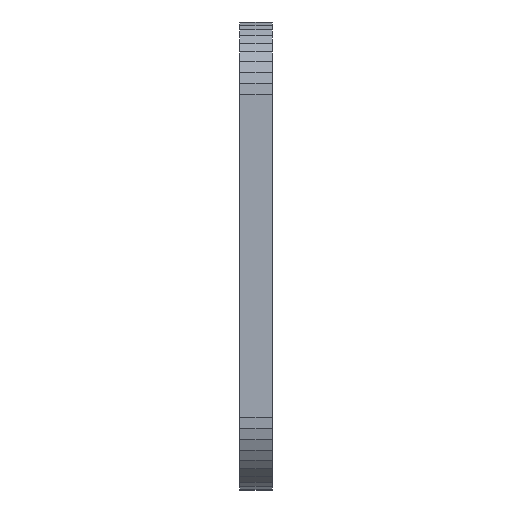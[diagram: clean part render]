
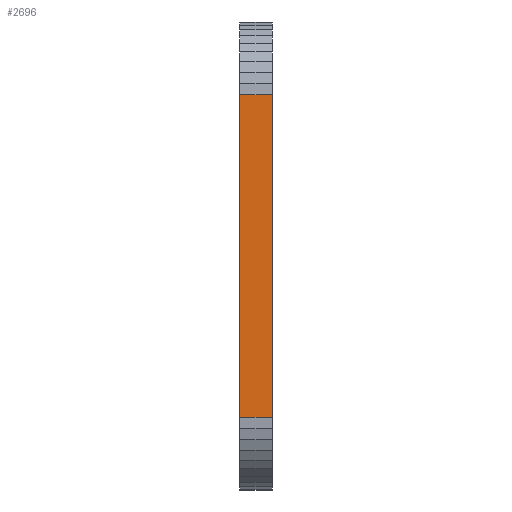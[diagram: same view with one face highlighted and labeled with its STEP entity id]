
A CAD part, left-side view. The second image highlights one B-rep face of the part: STEP entity #2696.
In plain terms, the highlighted planar face has unit normal (-1, 0, 0).
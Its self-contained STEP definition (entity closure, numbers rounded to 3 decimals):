
#72 = PLANE('',#73);
#73 = AXIS2_PLACEMENT_3D('',#74,#75,#76);
#74 = CARTESIAN_POINT('',(-12.678,51.5,-18.821));
#75 = DIRECTION('',(-0.,-1.,-0.));
#76 = DIRECTION('',(0.,0.,-1.));
#126 = PLANE('',#127);
#127 = AXIS2_PLACEMENT_3D('',#128,#129,#130);
#128 = CARTESIAN_POINT('',(-12.678,55.5,-18.821));
#129 = DIRECTION('',(-0.,-1.,-0.));
#130 = DIRECTION('',(0.,0.,-1.));
#767 = VERTEX_POINT('',#768);
#768 = CARTESIAN_POINT('',(-39.,55.5,0.));
#782 = PLANE('',#783);
#783 = AXIS2_PLACEMENT_3D('',#784,#785,#786);
#784 = CARTESIAN_POINT('',(-38.889,55.5,1.408));
#785 = DIRECTION('',(0.997,0.,-0.078));
#786 = DIRECTION('',(-0.078,0.,-0.997));
#794 = EDGE_CURVE('',#767,#795,#797,.T.);
#795 = VERTEX_POINT('',#796);
#796 = CARTESIAN_POINT('',(-39.,55.5,-40.));
#797 = SURFACE_CURVE('',#798,(#802,#809),.PCURVE_S1.);
#798 = LINE('',#799,#800);
#799 = CARTESIAN_POINT('',(-39.,55.5,0.));
#800 = VECTOR('',#801,1.);
#801 = DIRECTION('',(0.,0.,-1.));
#802 = PCURVE('',#126,#803);
#803 = DEFINITIONAL_REPRESENTATION('',(#804),#808);
#804 = LINE('',#805,#806);
#805 = CARTESIAN_POINT('',(-18.821,-26.322));
#806 = VECTOR('',#807,1.);
#807 = DIRECTION('',(1.,0.));
#808 = ( GEOMETRIC_REPRESENTATION_CONTEXT(2) 
PARAMETRIC_REPRESENTATION_CONTEXT() REPRESENTATION_CONTEXT('2D SPACE',''
  ) );
#809 = PCURVE('',#810,#815);
#810 = PLANE('',#811);
#811 = AXIS2_PLACEMENT_3D('',#812,#813,#814);
#812 = CARTESIAN_POINT('',(-39.,55.5,0.));
#813 = DIRECTION('',(1.,0.,0.));
#814 = DIRECTION('',(0.,0.,-1.));
#815 = DEFINITIONAL_REPRESENTATION('',(#816),#820);
#816 = LINE('',#817,#818);
#817 = CARTESIAN_POINT('',(0.,0.));
#818 = VECTOR('',#819,1.);
#819 = DIRECTION('',(1.,0.));
#820 = ( GEOMETRIC_REPRESENTATION_CONTEXT(2) 
PARAMETRIC_REPRESENTATION_CONTEXT() REPRESENTATION_CONTEXT('2D SPACE',''
  ) );
#838 = PLANE('',#839);
#839 = AXIS2_PLACEMENT_3D('',#840,#841,#842);
#840 = CARTESIAN_POINT('',(-39.,55.5,-40.));
#841 = DIRECTION('',(0.997,0.,0.078));
#842 = DIRECTION('',(0.078,0.,-0.997));
#1676 = VERTEX_POINT('',#1677);
#1677 = CARTESIAN_POINT('',(-39.,51.5,0.));
#1698 = EDGE_CURVE('',#1676,#1699,#1701,.T.);
#1699 = VERTEX_POINT('',#1700);
#1700 = CARTESIAN_POINT('',(-39.,51.5,-40.));
#1701 = SURFACE_CURVE('',#1702,(#1706,#1713),.PCURVE_S1.);
#1702 = LINE('',#1703,#1704);
#1703 = CARTESIAN_POINT('',(-39.,51.5,0.));
#1704 = VECTOR('',#1705,1.);
#1705 = DIRECTION('',(0.,0.,-1.));
#1706 = PCURVE('',#72,#1707);
#1707 = DEFINITIONAL_REPRESENTATION('',(#1708),#1712);
#1708 = LINE('',#1709,#1710);
#1709 = CARTESIAN_POINT('',(-18.821,-26.322));
#1710 = VECTOR('',#1711,1.);
#1711 = DIRECTION('',(1.,0.));
#1712 = ( GEOMETRIC_REPRESENTATION_CONTEXT(2) 
PARAMETRIC_REPRESENTATION_CONTEXT() REPRESENTATION_CONTEXT('2D SPACE',''
  ) );
#1713 = PCURVE('',#810,#1714);
#1714 = DEFINITIONAL_REPRESENTATION('',(#1715),#1719);
#1715 = LINE('',#1716,#1717);
#1716 = CARTESIAN_POINT('',(0.,-4.));
#1717 = VECTOR('',#1718,1.);
#1718 = DIRECTION('',(1.,0.));
#1719 = ( GEOMETRIC_REPRESENTATION_CONTEXT(2) 
PARAMETRIC_REPRESENTATION_CONTEXT() REPRESENTATION_CONTEXT('2D SPACE',''
  ) );
#2646 = EDGE_CURVE('',#795,#1699,#2647,.T.);
#2647 = SURFACE_CURVE('',#2648,(#2652,#2659),.PCURVE_S1.);
#2648 = LINE('',#2649,#2650);
#2649 = CARTESIAN_POINT('',(-39.,55.5,-40.));
#2650 = VECTOR('',#2651,1.);
#2651 = DIRECTION('',(0.,-1.,0.));
#2652 = PCURVE('',#838,#2653);
#2653 = DEFINITIONAL_REPRESENTATION('',(#2654),#2658);
#2654 = LINE('',#2655,#2656);
#2655 = CARTESIAN_POINT('',(0.,0.));
#2656 = VECTOR('',#2657,1.);
#2657 = DIRECTION('',(0.,-1.));
#2658 = ( GEOMETRIC_REPRESENTATION_CONTEXT(2) 
PARAMETRIC_REPRESENTATION_CONTEXT() REPRESENTATION_CONTEXT('2D SPACE',''
  ) );
#2659 = PCURVE('',#810,#2660);
#2660 = DEFINITIONAL_REPRESENTATION('',(#2661),#2665);
#2661 = LINE('',#2662,#2663);
#2662 = CARTESIAN_POINT('',(40.,0.));
#2663 = VECTOR('',#2664,1.);
#2664 = DIRECTION('',(0.,-1.));
#2665 = ( GEOMETRIC_REPRESENTATION_CONTEXT(2) 
PARAMETRIC_REPRESENTATION_CONTEXT() REPRESENTATION_CONTEXT('2D SPACE',''
  ) );
#2696 = ADVANCED_FACE('',(#2697),#810,.F.);
#2697 = FACE_BOUND('',#2698,.F.);
#2698 = EDGE_LOOP('',(#2699,#2720,#2721,#2722));
#2699 = ORIENTED_EDGE('',*,*,#2700,.T.);
#2700 = EDGE_CURVE('',#767,#1676,#2701,.T.);
#2701 = SURFACE_CURVE('',#2702,(#2706,#2713),.PCURVE_S1.);
#2702 = LINE('',#2703,#2704);
#2703 = CARTESIAN_POINT('',(-39.,55.5,0.));
#2704 = VECTOR('',#2705,1.);
#2705 = DIRECTION('',(0.,-1.,0.));
#2706 = PCURVE('',#810,#2707);
#2707 = DEFINITIONAL_REPRESENTATION('',(#2708),#2712);
#2708 = LINE('',#2709,#2710);
#2709 = CARTESIAN_POINT('',(0.,0.));
#2710 = VECTOR('',#2711,1.);
#2711 = DIRECTION('',(0.,-1.));
#2712 = ( GEOMETRIC_REPRESENTATION_CONTEXT(2) 
PARAMETRIC_REPRESENTATION_CONTEXT() REPRESENTATION_CONTEXT('2D SPACE',''
  ) );
#2713 = PCURVE('',#782,#2714);
#2714 = DEFINITIONAL_REPRESENTATION('',(#2715),#2719);
#2715 = LINE('',#2716,#2717);
#2716 = CARTESIAN_POINT('',(1.412,0.));
#2717 = VECTOR('',#2718,1.);
#2718 = DIRECTION('',(-0.,-1.));
#2719 = ( GEOMETRIC_REPRESENTATION_CONTEXT(2) 
PARAMETRIC_REPRESENTATION_CONTEXT() REPRESENTATION_CONTEXT('2D SPACE',''
  ) );
#2720 = ORIENTED_EDGE('',*,*,#1698,.T.);
#2721 = ORIENTED_EDGE('',*,*,#2646,.F.);
#2722 = ORIENTED_EDGE('',*,*,#794,.F.);
